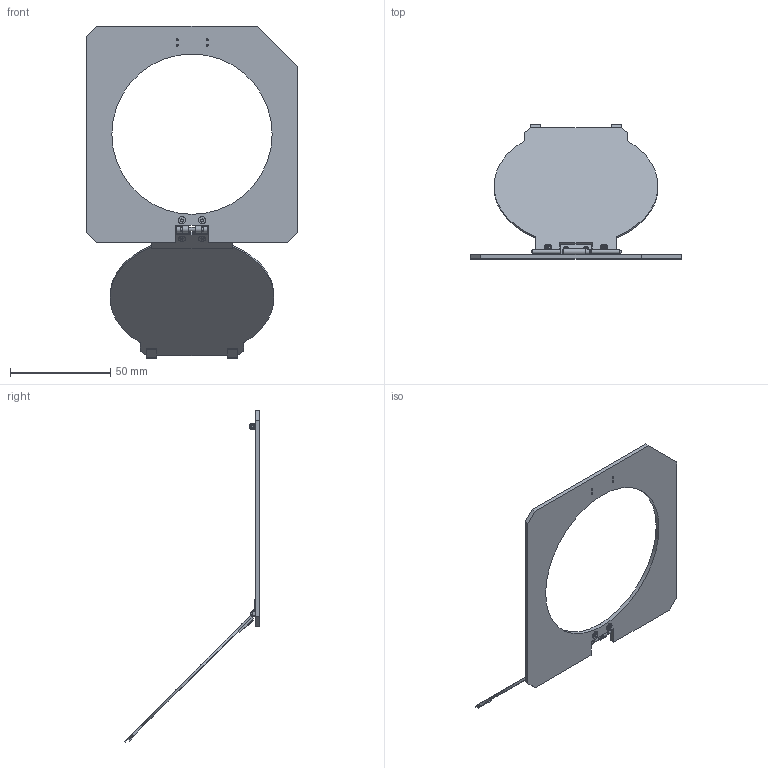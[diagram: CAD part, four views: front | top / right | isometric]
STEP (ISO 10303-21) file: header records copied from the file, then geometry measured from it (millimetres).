
FILE_DESCRIPTION (( 'STEP AP214' ), '1' );
FILE_NAME ('EXA STARSPEC Shutter.STEP', '2024-11-20T21:11:21', ( '' ), ( '' ), 'SwSTEP 2.0', 'SolidWorks 2023', '' );
FILE_SCHEMA (( 'AUTOMOTIVE_DESIGN' ));
Length unit declared in the file: millimetre
Products named in the file (14): Hinge Nano; Shutter Lid; EXA STARSPEC Shutter; Shutter Holder Plates; Hinge v6 2 Base SM 0.57mm; M2 Torx Screw; Muscule Clip Assembly - DSA Assembly; NMD_Bent; Shutter Base; Axis; Muscule Simplified - DSA Assembly; Hinge v6 Base SM 0,57mm
Assembly tree (18 placements, depth 3):
  EXA STARSPEC Shutter
    Shutter Base
    Shutter Lid
    NMD_Bent
      Muscule Simplified - DSA Assembly
      Muscule Clip Assembly - DSA Assembly  x2
    Shutter Holder Plates  x2
    Hinge Nano
      Axis
      Hinge v6 Base SM 0,57mm
      Hinge v6 2 Base SM 0.57mm
    M2 Torx Screw  x4
    M2 Torx Screw
    M2 Torx Screw
Bounding box: 105 x 67.19 x 165.73 mm (x, y, z)
Volume: 19045 mm3; surface area: 27171.1 mm2
Topology: 21 solids, 21 shells, 521 faces, 1298 edges, 840 vertices
Faces by surface type: plane 261, sphere 88, cylinder 78, bspline 61, cone 33
Full cylindrical faces by diameter (mm): 1.031 x4, 2 x3, 2.2 x2, 2.25 x4, 2.51 x1, 3.02 x1, 3.65 x10, 80 x1
Entity records: 22320 total; most frequent: CARTESIAN_POINT 12628, ORIENTED_EDGE 1964, DIRECTION 1734, EDGE_CURVE 982, AXIS2_PLACEMENT_3D 665, VERTEX_POINT 655, EDGE_LOOP 519, FACE_OUTER_BOUND 446
